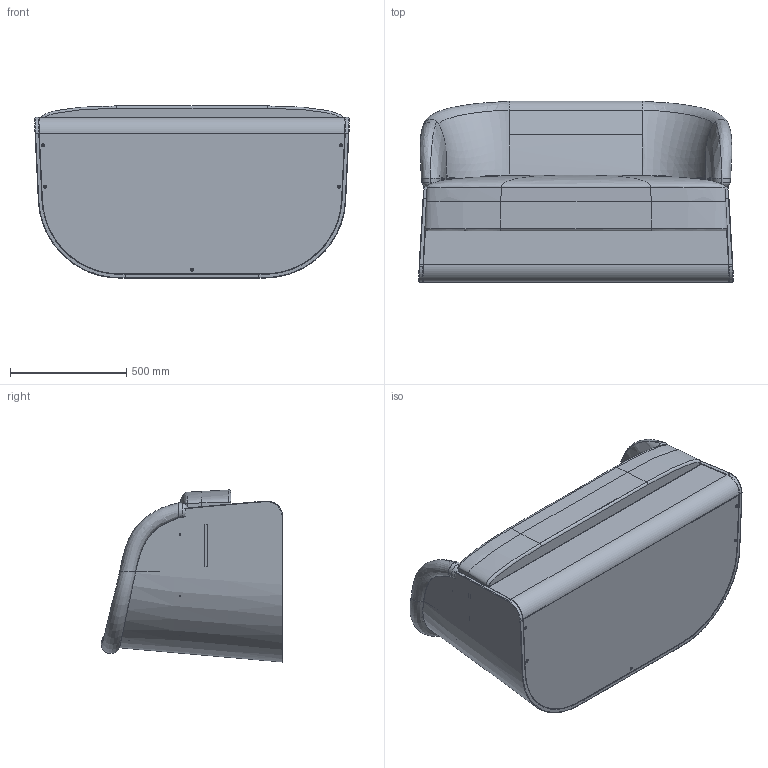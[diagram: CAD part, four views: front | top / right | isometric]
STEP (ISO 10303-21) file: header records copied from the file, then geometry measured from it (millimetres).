
FILE_DESCRIPTION (( 'STEP AP203' ), '1' );
FILE_NAME ('PCPD1672.04 - Domus 2 Seater.STEP', '2025-04-28T09:31:47', ( '' ), ( '' ), 'SwSTEP 2.0', 'SolidWorks 2025', '' );
FILE_SCHEMA (( 'CONFIG_CONTROL_DESIGN' ));
Length unit declared in the file: millimetre
Products named in the file (3): Domus Facelift 2-SEATER - Backrest - version 3_2 Seater ; Domus Facelift 2-Seater - seat - version 3_2 seater; PCPD1672.04 - Domus 2 Seater
Assembly tree (2 placements, depth 2):
  PCPD1672.04 - Domus 2 Seater
    Domus Facelift 2-Seater - seat - version 3_2 seater
    Domus Facelift 2-SEATER - Backrest - version 3_2 Seater 
Bounding box: 1353.99 x 781.27 x 741.22 mm (x, y, z)
Volume: 224258196.8 mm3; surface area: 15544097.4 mm2
Topology: 54 solids, 54 shells, 1205 faces, 2936 edges, 1835 vertices
Faces by surface type: cylinder 463, plane 443, bspline 178, cone 117, torus 4
Entity records: 83027 total; most frequent: CARTESIAN_POINT 56108, ORIENTED_EDGE 5618, DIRECTION 5029, EDGE_CURVE 2809, AXIS2_PLACEMENT_3D 1868, VERTEX_POINT 1835, EDGE_LOOP 1464, LINE 1293
